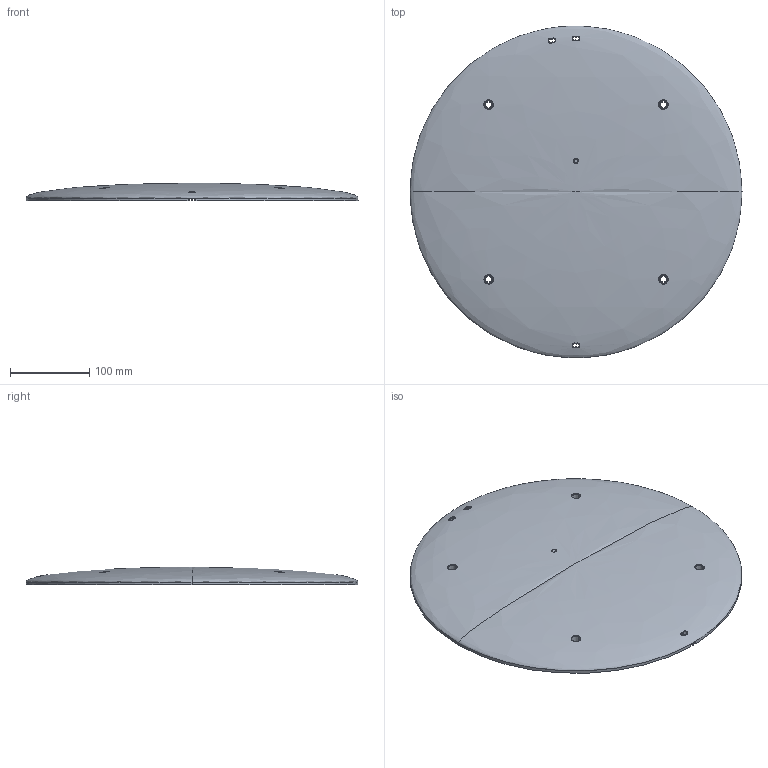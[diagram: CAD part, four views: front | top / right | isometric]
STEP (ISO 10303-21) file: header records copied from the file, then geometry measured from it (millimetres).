
FILE_DESCRIPTION (( 'STEP AP214' ), '1' );
FILE_NAME ('4222818swm000.step', '2020-06-15T11:05:55', ( 'OSRAM' ), ( 'OSRAM' ), 'SwSTEP 2.0', 'SolidWorks 2017', '' );
FILE_SCHEMA (( 'AUTOMOTIVE_DESIGN' ));
Length unit declared in the file: millimetre
Products named in the file (1): 4222818swm000
Bounding box: 418 x 417.88 x 22.15 mm (x, y, z)
Volume: 296365.1 mm3; surface area: 292126.8 mm2
Topology: 1 solids, 1 shells, 1250 faces, 2898 edges, 1626 vertices
Faces by surface type: bspline 364, cylinder 264, sphere 207, plane 187, torus 155, cone 73
Entity records: 48231 total; most frequent: CARTESIAN_POINT 22803, ORIENTED_EDGE 5740, DIRECTION 5009, EDGE_CURVE 2870, AXIS2_PLACEMENT_3D 2234, VERTEX_POINT 1626, CIRCLE 1347, EDGE_LOOP 1268
